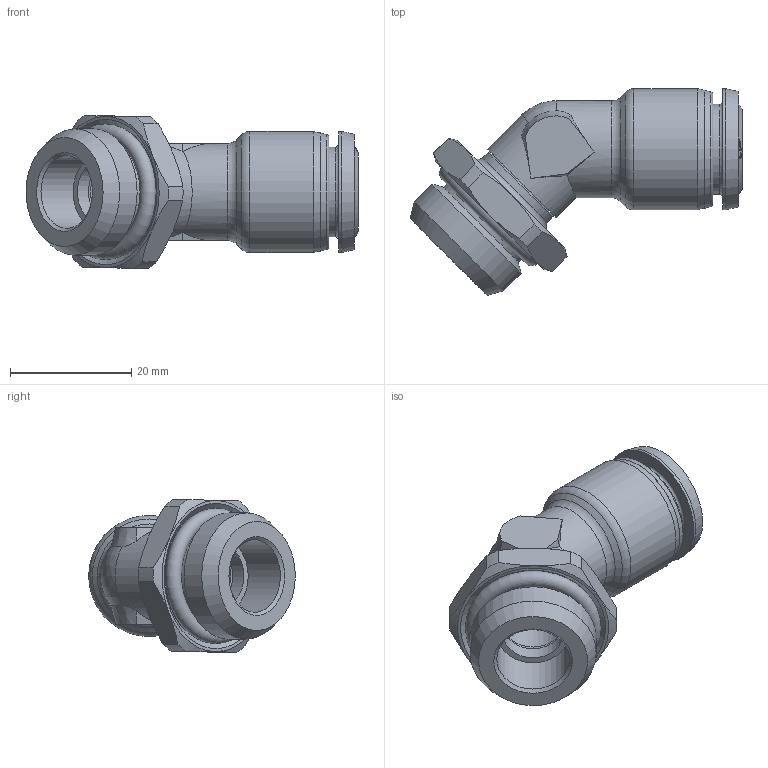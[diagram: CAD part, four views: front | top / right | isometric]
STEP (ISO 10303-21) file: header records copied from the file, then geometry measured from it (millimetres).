
FILE_DESCRIPTION (( 'STEP AP214' ), '1' );
FILE_NAME ('5517500026A.STEP', '2013-10-15T14:21:57', ( 'ST01' ), ( '' ), 'SwSTEP 2.0', 'SolidWorks 2012', '' );
FILE_SCHEMA (( 'AUTOMOTIVE_DESIGN' ));
Length unit declared in the file: millimetre
Products named in the file (1): 5517500026A
Bounding box: 54.81 x 34.11 x 25.2 mm (x, y, z)
Surface area: 6538.9 mm2 (no closed solid volume)
Topology: 0 solids, 8 shells, 137 faces, 360 edges, 229 vertices
Faces by surface type: bspline 49, cone 35, plane 26, cylinder 18, torus 8, sphere 1
Full cylindrical faces by diameter (mm): 10 x2, 12 x1, 12.2 x1, 12.8 x1, 14.85 x1, 16 x2, 17.5 x1, 20 x2, 20.82 x1
Entity records: 8061 total; most frequent: CARTESIAN_POINT 3951, ORIENTED_EDGE 585, DIRECTION 354, EDGE_CURVE 313, VERTEX_POINT 218, B_SPLINE_CURVE_WITH_KNOTS 194, EDGE_LOOP 180, AXIS2_PLACEMENT_3D 162
